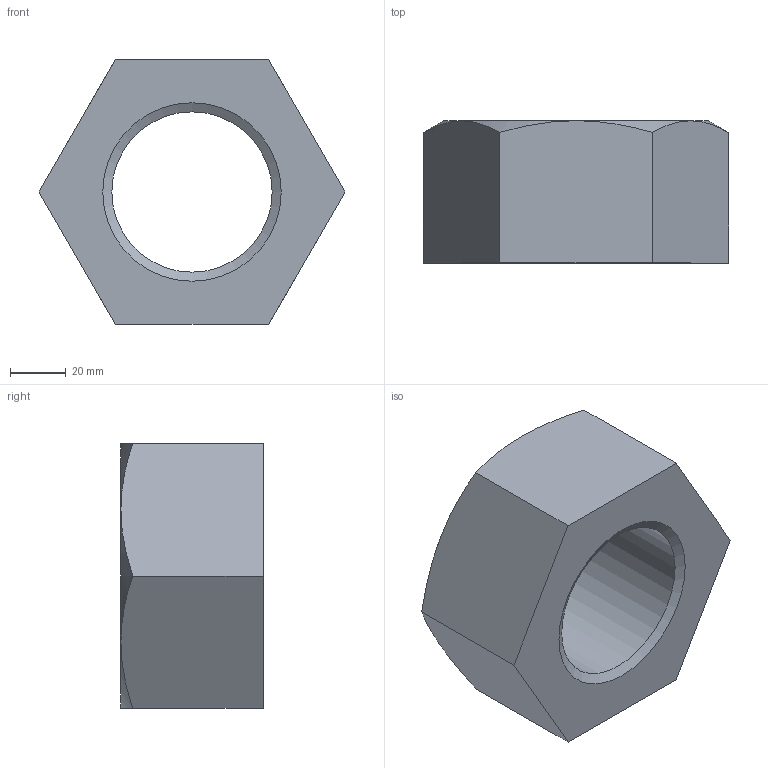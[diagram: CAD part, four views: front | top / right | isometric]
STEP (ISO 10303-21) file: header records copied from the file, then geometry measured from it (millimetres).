
FILE_DESCRIPTION(/* description */ (''),/* implementation_level */ '2;1');
FILE_NAME(/* name */ 'C:\Users\unitec\Desktop\ナット1種 中\M64.stp',/* time_stamp */ '2014-05-08T16:46:40+09:00',/* author */ ('unitec'),/* organization */ (''),/* preprocessor_version */ 'ST-DEVELOPER v15.2',/* originating_system */ 'Autodesk Inventor 2014',/* authorisation */ '');
FILE_SCHEMA (('AUTOMOTIVE_DESIGN { 1 0 10303 214 3 1 1 }'));
Length unit declared in the file: millimetre
Products named in the file (1): M64
Bounding box: 109.7 x 51 x 95 mm (x, y, z)
Volume: 264081.8 mm3; surface area: 35582.5 mm2
Topology: 1 solids, 1 shells, 17 faces, 37 edges, 22 vertices
Faces by surface type: cone 8, plane 8, cylinder 1
Full cylindrical faces by diameter (mm): 57.505 x1
Entity records: 455 total; most frequent: CARTESIAN_POINT 98, ORIENTED_EDGE 68, DIRECTION 68, EDGE_CURVE 34, AXIS2_PLACEMENT_3D 28, EDGE_LOOP 22, VERTEX_POINT 22, ADVANCED_FACE 17
